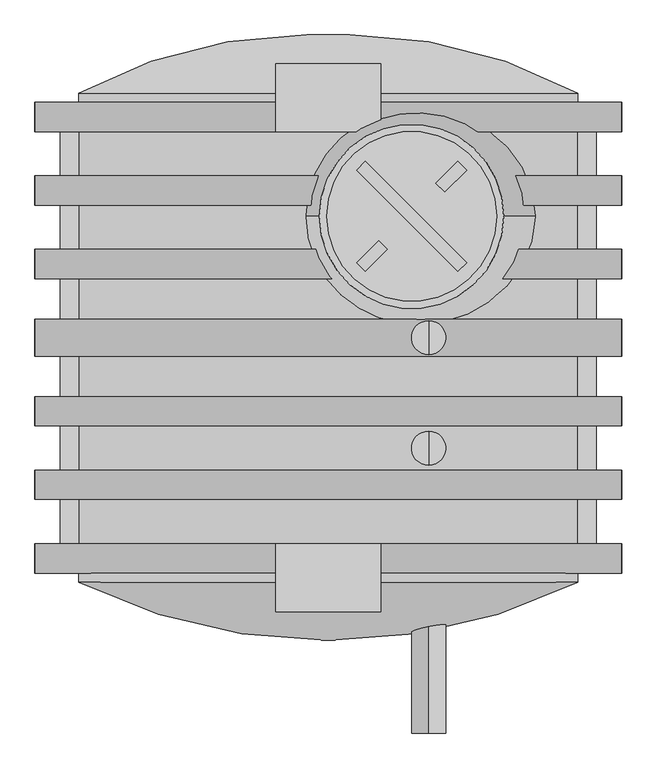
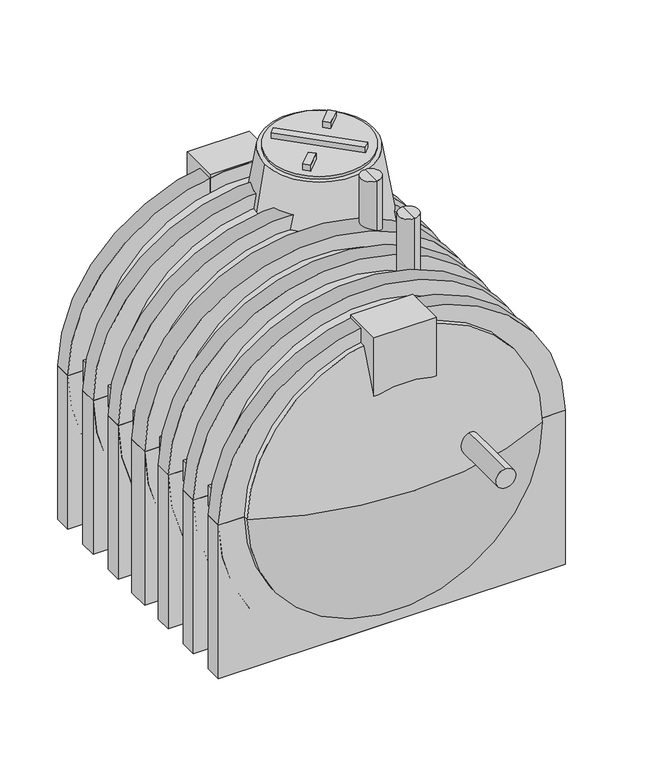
"""IFC4 building model written with IfcOpenShell, lengths in millimetres: pipe fitting geometry, Plastigama Wavin_Biotanque Séptico 4000L : 4000 Litros."""

from ifc_helpers import new_model, si_unit, point, frame, frame_2d, origin, origin_2d, place, context, project, spatial, polyline, circle_curve, ellipse_curve, trimmed, segment, composite_curve, outline, extrude, source, transform, mapped, element, save
from ifc_brep_helpers import plane_surface, cylinder_surface, revolved_surface, extruded_surface, advanced_brep


def pipe_fitting_64e98824(model_context):
    return source(origin(), model_context, "Body", "SolidModel", [
        advanced_brep(
        [(325.0000006, 349.24, 1119.3), (325.0000006, 459.24, 1119.3), (325.0000006, 459.24, 463.1), (325.0000006, 349.24, 463.1), (325.0000006, 404.24, 1119.3), (325.0000006, 404.24, 463.1)],
        [
            (0, 1, circle_curve(frame((325.0000006, 404.24, 1119.3), z_axis=(0.0, 0.0, -1.0), x_axis=(0.0, 1.0, 0.0)), 55.0)),
            (1, 2),
            (2, 3, circle_curve(frame((325.0000006, 404.24, 463.1), z_axis=(0.0, 0.0, 1.0), x_axis=(0.0, 1.0, 0.0)), 55.0)),
            (3, 0),
            (1, 0, circle_curve(frame((325.0000006, 404.24, 1119.3), z_axis=(0.0, 0.0, -1.0), x_axis=(0.0, 1.0, 0.0)), 55.0)),
            (3, 2, circle_curve(frame((325.0000006, 404.24, 463.1), z_axis=(0.0, 0.0, 1.0), x_axis=(0.0, 1.0, 0.0)), 55.0)),
            (4, 1),
            (0, 4),
            (2, 5),
            (5, 3),
        ],
        [
            cylinder_surface(frame((325.0000006, 404.24, 463.1), z_axis=(0.0, 0.0, 1.0), x_axis=(0.0, 1.0, 0.0)), 55.0),
            plane_surface(frame((325.0000006, 404.24, 1119.3), z_axis=(0.0, 0.0, 1.0), x_axis=(0.0, 1.0, 0.0))),
            plane_surface(frame((325.0000006, 404.24, 463.1), z_axis=(0.0, 0.0, -1.0), x_axis=(0.0, 1.0, 0.0))),
        ],
        [
            (0, [[1, 2, 3, 4]]),
            (0, [[5, -4, 6, -2]]),
            (1, [[7, -1, 8]]),
            (1, [[-8, -5, -7]]),
            (2, [[-3, 9, 10]]),
            (2, [[-6, -10, -9]]),
        ],
    ),
        advanced_brep(
        [(325.0, 707.15, 463.1), (325.0, 817.15, 463.1), (325.0, 762.15, 463.1), (325.0, 707.15, 1119.3), (325.0, 817.15, 1119.3), (325.0, 762.15, 1119.3)],
        [
            (0, 1, circle_curve(frame((325.0, 762.15, 463.1), z_axis=(0.0, 0.0, -1.0), x_axis=(0.0, 1.0, 0.0)), 55.0)),
            (1, 2),
            (2, 0),
            (1, 0, circle_curve(frame((325.0, 762.15, 463.1), z_axis=(0.0, 0.0, -1.0), x_axis=(0.0, 1.0, 0.0)), 55.0)),
            (3, 4, circle_curve(frame((325.0, 762.15, 1119.3), z_axis=(0.0, 0.0, -1.0), x_axis=(0.0, 1.0, 0.0)), 55.0)),
            (4, 1),
            (0, 3),
            (4, 3, circle_curve(frame((325.0, 762.15, 1119.3), z_axis=(0.0, 0.0, -1.0), x_axis=(0.0, 1.0, 0.0)), 55.0)),
            (5, 4),
            (3, 5),
        ],
        [
            plane_surface(frame((325.0, 762.15, 463.1), z_axis=(0.0, 0.0, -1.0), x_axis=(0.0, 1.0, 0.0))),
            cylinder_surface(frame((325.0, 762.15, 1115.3167923), z_axis=(0.0, 0.0, 1.0), x_axis=(0.0, 1.0, 0.0)), 55.0),
            plane_surface(frame((325.0, 762.15, 1119.3), z_axis=(0.0, 0.0, 1.0), x_axis=(0.0, 1.0, 0.0))),
        ],
        [
            (0, [[1, 2, 3]]),
            (0, [[4, -3, -2]]),
            (1, [[5, 6, -1, 7]]),
            (1, [[8, -7, -4, -6]]),
            (2, [[9, -5, 10]]),
            (2, [[-10, -8, -9]]),
        ],
    ),
        extrude(outline(polyline([(447.9080661, 1304.6437949), (377.197388, 1233.9331168), (348.9131168, 1262.217388), (419.6237949, 1332.9280661), (447.9080661, 1304.6437949)])), frame((0.0, 0.0, 1085.0), z_axis=(0.0, 0.0, 1.0), x_axis=(1.0, 0.0, 0.0)), (0.0, 0.0, 1.0), 34.3),
        extrude(outline(polyline([(120.3762051, 1332.9280661), (447.9080661, 1005.3962051), (419.6237949, 977.1119339), (92.0919339, 1304.6437949), (120.3762051, 1332.9280661)])), frame((0.0, 0.0, 1085.0), z_axis=(0.0, 0.0, 1.0), x_axis=(1.0, 0.0, 0.0)), (0.0, 0.0, 1.0), 34.3),
        extrude(outline(polyline([(92.0919339, 1005.3962051), (162.802612, 1076.1068832), (191.0868832, 1047.822612), (120.3762051, 977.1119339), (92.0919339, 1005.3962051)])), frame((0.0, 0.0, 1085.0), z_axis=(0.0, 0.0, 1.0), x_axis=(1.0, 0.0, 0.0)), (0.0, 0.0, 1.0), 34.3),
        extrude(outline(composite_curve([segment(trimmed(circle_curve(frame_2d((270.0, 1155.02)), 275.0), [point((-5.0, 1155.02))], [point((545.0, 1155.02))], False, "CARTESIAN"), True, "CONTINUOUS"), segment(trimmed(circle_curve(frame_2d((270.0, 1155.02)), 275.0), [point((545.0, 1155.02))], [point((-5.0, 1155.02))], False, "CARTESIAN"), True, "CONTINUOUS")], self_intersect=False)), frame((0.0, 0.0, 1069.6), z_axis=(0.0, 0.0, 1.0), x_axis=(1.0, 0.0, 0.0)), (0.0, 0.0, 1.0), 15.4),
        advanced_brep(
        [(-28.6, 1155.02, 1069.6), (568.6, 1155.02, 1069.6), (-130.0, 1155.02, 450.0), (670.0, 1155.02, 450.0)],
        [
            (0, 1, circle_curve(frame((270.0, 1155.02, 1069.6), z_axis=(0.0, 0.0, 1.0), x_axis=(-1.0, 0.0, 0.0)), 298.6)),
            (1, 0, circle_curve(frame((270.0, 1155.02, 1069.6), z_axis=(0.0, 0.0, 1.0), x_axis=(1.0, 0.0, 0.0)), 298.6)),
            (2, 3, circle_curve(frame((270.0, 1155.02, 450.0), z_axis=(0.0, 0.0, -1.0), x_axis=(1.0, 0.0, 0.0)), 400.0)),
            (3, 2, circle_curve(frame((270.0, 1155.02, 450.0), z_axis=(0.0, 0.0, -1.0), x_axis=(-1.0, 0.0, 0.0)), 400.0)),
            (3, 1),
            (0, 2),
        ],
        [
            plane_surface(frame((270.0, 1155.02, 1069.6), z_axis=(0.0, 0.0, 1.0), x_axis=(0.0, -1.0, 0.0))),
            plane_surface(frame((270.0, 1155.02, 450.0), z_axis=(0.0, 0.0, -1.0), x_axis=(0.0, -1.0, 0.0))),
            revolved_surface(polyline([(-28.60000000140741, 1155.02, 1069.6), (-130.0, 1155.02, 450.0)]), (270.0, 1155.02, 2894.1814596), (0.0, 0.0, -1.0)),
            revolved_surface(polyline([(568.6000000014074, 1155.02, 1069.6), (670.0, 1155.02, 450.0)]), (270.0, 1155.02, 2894.1814596), (0.0, 0.0, -1.0)),
        ],
        [
            (0, [[1, 2]]),
            (1, [[3, 4]]),
            (2, [[-4, 5, -1, 6]]),
            (3, [[-3, -6, -2, -5]]),
        ],
    ),
        advanced_brep(
        [(0.0, 1649.2, 775.0), (0.0, 1649.2, 665.0), (0.0, 1421.75, 775.0), (0.0, 1531.75, 665.0), (0.0, 1421.75, 300.0), (0.0, 1531.75, 300.0)],
        [
            (0, 1, circle_curve(frame((0.0, 1649.2, 720.0), z_axis=(0.0, 1.0, 0.0), x_axis=(0.0, 0.0, -1.0)), 55.0)),
            (1, 0, circle_curve(frame((0.0, 1649.2, 720.0), z_axis=(0.0, 1.0, 0.0), x_axis=(0.0, 0.0, -1.0)), 55.0)),
            (0, 2),
            (2, 3, ellipse_curve(frame((0.0, 1476.75, 720.0), z_axis=(0.0, 0.7071067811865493, 0.7071067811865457), x_axis=(0.0, 0.7071067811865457, -0.7071067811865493)), 77.7817459, 55.0)),
            (3, 1),
            (3, 2, ellipse_curve(frame((0.0, 1476.75, 720.0), z_axis=(0.0, 0.7071067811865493, 0.7071067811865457), x_axis=(0.0, 0.7071067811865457, -0.7071067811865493)), 77.7817459, 55.0)),
            (4, 5, circle_curve(frame((0.0, 1476.75, 300.0), z_axis=(0.0, 0.0, -1.0), x_axis=(0.0, 1.0, 0.0)), 55.0)),
            (5, 4, circle_curve(frame((0.0, 1476.75, 300.0), z_axis=(0.0, 0.0, -1.0), x_axis=(0.0, 1.0, 0.0)), 55.0)),
            (2, 4),
            (5, 3),
        ],
        [
            plane_surface(frame((0.0, 1649.2, 720.0), z_axis=(0.0, 1.0, 0.0), x_axis=(1.0, 0.0, 0.0))),
            cylinder_surface(frame((0.0, 1649.2, 720.0), z_axis=(0.0, 1.0, 0.0), x_axis=(0.0, 0.0, -1.0)), 55.0),
            plane_surface(frame((0.0, 1476.75, 300.0), z_axis=(0.0, 0.0, -1.0), x_axis=(1.0, 0.0, 0.0))),
            cylinder_surface(frame((0.0, 1476.75, 720.0), z_axis=(0.0, 0.0, 1.0), x_axis=(0.0, 1.0, 0.0)), 55.0),
        ],
        [
            (0, [[1, 2]]),
            (1, [[-1, 3, 4, 5]]),
            (1, [[-2, -5, 6, -3]]),
            (2, [[7, 8]]),
            (3, [[-4, 9, -8, 10]]),
            (3, [[-6, -10, -7, -9]]),
        ],
    ),
        extrude(outline(polyline([(170.0, 1649.3), (170.0, 1429.2), (-170.0, 1429.2), (-170.0, 1649.3), (170.0, 1649.3)])), frame((0.0, 0.0, 550.0), z_axis=(0.0, 0.0, 1.0), x_axis=(1.0, 0.0, 0.0)), (0.0, 0.0, 1.0), 340.0),
        extrude(outline(polyline([(170.0, 95.1), (170.0, -125.0), (-170.0, -125.0), (-170.0, 95.1), (170.0, 95.1)])), frame((0.0, 0.0, 550.0), z_axis=(0.0, 0.0, 1.0), x_axis=(1.0, 0.0, 0.0)), (0.0, 0.0, 1.0), 340.0),
        extrude(outline(polyline([(-868.4, 1429.2), (-808.4, 1429.2), (-808.4, 1286.1), (-868.4, 1286.1), (-868.4, 1429.2)])), frame((0.0, 0.0, -60.0), z_axis=(0.0, 0.0, 1.0), x_axis=(1.0, 0.0, 0.0)), (0.0, 0.0, 1.0), 120.0),
        extrude(outline(polyline([(-868.4, 1191.0), (-808.4, 1191.0), (-808.4, 1047.9), (-868.4, 1047.9), (-868.4, 1191.0)])), frame((0.0, 0.0, -60.0), z_axis=(0.0, 0.0, 1.0), x_axis=(1.0, 0.0, 0.0)), (0.0, 0.0, 1.0), 120.0),
        extrude(outline(polyline([(-868.4, 952.8), (-808.4, 952.8), (-808.4, 809.7), (-868.4, 809.7), (-868.4, 952.8)])), frame((0.0, 0.0, -60.0), z_axis=(0.0, 0.0, 1.0), x_axis=(1.0, 0.0, 0.0)), (0.0, 0.0, 1.0), 120.0),
        extrude(outline(polyline([(-868.4, 714.6), (-808.4, 714.6), (-808.4, 571.5), (-868.4, 571.5), (-868.4, 714.6)])), frame((0.0, 0.0, -60.0), z_axis=(0.0, 0.0, 1.0), x_axis=(1.0, 0.0, 0.0)), (0.0, 0.0, 1.0), 120.0),
        extrude(outline(polyline([(-868.4, 476.4), (-808.4, 476.4), (-808.4, 333.3), (-868.4, 333.3), (-868.4, 476.4)])), frame((0.0, 0.0, -60.0), z_axis=(0.0, 0.0, 1.0), x_axis=(1.0, 0.0, 0.0)), (0.0, 0.0, 1.0), 120.0),
        extrude(outline(polyline([(-868.4, 238.2), (-808.4, 238.2), (-808.4, 95.1), (-868.4, 95.1), (-868.4, 238.2)])), frame((0.0, 0.0, -60.0), z_axis=(0.0, 0.0, 1.0), x_axis=(1.0, 0.0, 0.0)), (0.0, 0.0, 1.0), 120.0),
        extrude(outline(polyline([(808.4, 1429.2), (868.4, 1429.2), (868.4, 1286.1), (808.4, 1286.1), (808.4, 1429.2)])), frame((0.0, 0.0, -60.0), z_axis=(0.0, 0.0, 1.0), x_axis=(1.0, 0.0, 0.0)), (0.0, 0.0, 1.0), 120.0),
        extrude(outline(polyline([(808.4, 1191.0), (868.4, 1191.0), (868.4, 1047.9), (808.4, 1047.9), (808.4, 1191.0)])), frame((0.0, 0.0, -60.0), z_axis=(0.0, 0.0, 1.0), x_axis=(1.0, 0.0, 0.0)), (0.0, 0.0, 1.0), 120.0),
        extrude(outline(polyline([(808.4, 952.8), (868.4, 952.8), (868.4, 809.7), (808.4, 809.7), (808.4, 952.8)])), frame((0.0, 0.0, -60.0), z_axis=(0.0, 0.0, 1.0), x_axis=(1.0, 0.0, 0.0)), (0.0, 0.0, 1.0), 120.0),
        extrude(outline(polyline([(808.4, 714.6), (868.4, 714.6), (868.4, 571.5), (808.4, 571.5), (808.4, 714.6)])), frame((0.0, 0.0, -60.0), z_axis=(0.0, 0.0, 1.0), x_axis=(1.0, 0.0, 0.0)), (0.0, 0.0, 1.0), 120.0),
        extrude(outline(polyline([(808.4, 476.4), (868.4, 476.4), (868.4, 333.3), (808.4, 333.3), (808.4, 476.4)])), frame((0.0, 0.0, -60.0), z_axis=(0.0, 0.0, 1.0), x_axis=(1.0, 0.0, 0.0)), (0.0, 0.0, 1.0), 120.0),
        extrude(outline(polyline([(808.4, 238.2), (868.4, 238.2), (868.4, 95.1), (808.4, 95.1), (808.4, 238.2)])), frame((0.0, 0.0, -60.0), z_axis=(0.0, 0.0, 1.0), x_axis=(1.0, 0.0, 0.0)), (0.0, 0.0, 1.0), 120.0),
        advanced_brep(
        [(270.0, 1155.02, 651.8), (270.0, 1421.62, 651.8), (270.0, 888.42, 651.8), (270.0, 888.42, -590.0), (270.0, 1421.62, -590.0), (270.0, 1155.02, -590.0)],
        [
            (0, 1),
            (1, 2, circle_curve(frame((270.0, 1155.02, 651.8), z_axis=(0.0, 0.0, 1.0), x_axis=(0.0, 1.0, 0.0)), 266.6)),
            (2, 0),
            (2, 1, circle_curve(frame((270.0, 1155.02, 651.8), z_axis=(0.0, 0.0, 1.0), x_axis=(0.0, 1.0, 0.0)), 266.6)),
            (3, 4, circle_curve(frame((270.0, 1155.02, -590.0), z_axis=(0.0, 0.0, -1.0), x_axis=(0.0, 1.0, 0.0)), 266.6)),
            (4, 5),
            (5, 3),
            (4, 3, circle_curve(frame((270.0, 1155.02, -590.0), z_axis=(0.0, 0.0, -1.0), x_axis=(0.0, 1.0, 0.0)), 266.6)),
            (1, 4),
            (3, 2),
        ],
        [
            plane_surface(frame((270.0, 1155.02, 651.8), z_axis=(0.0, 0.0, 1.0), x_axis=(0.0, 1.0, 0.0))),
            plane_surface(frame((270.0, 1155.02, -590.0), z_axis=(0.0, 0.0, -1.0), x_axis=(0.0, 1.0, 0.0))),
            cylinder_surface(frame((270.0, 1155.02, 650.3097509), z_axis=(0.0, 0.0, 1.0), x_axis=(0.0, 1.0, 0.0)), 266.6),
        ],
        [
            (0, [[1, 2, 3]]),
            (0, [[-3, 4, -1]]),
            (1, [[5, 6, 7]]),
            (1, [[8, -7, -6]]),
            (2, [[-2, 9, -5, 10]]),
            (2, [[-4, -10, -8, -9]]),
        ],
    ),
        advanced_brep(
        [(325.0, 894.2322118, 573.1), (325.0, 894.2322118, 463.1), (325.0, 707.15, 573.1), (325.0, 817.15, 463.1), (325.0, 707.15, -480.0), (325.0, 817.15, -590.0), (325.0, 459.2322118, -480.0), (325.0, 349.2322118, -590.0), (325.0, 459.2322118, 573.1), (325.0, 349.2322118, 463.1), (325.0, 114.2322118, 573.1), (325.0, 224.2322118, 463.1), (325.0, 114.2322118, -480.0), (325.0, 224.2322118, -590.0), (325.0, 69.2322118, -480.0), (325.0, -40.7677882, -590.0), (325.0, 69.2322118, 195.5), (325.0, -40.7677882, 85.5), (325.0, -518.2, 195.5), (325.0, -518.2, 85.5)],
        [
            (0, 1, circle_curve(frame((325.0, 894.2322118, 518.1), z_axis=(0.0, 1.0, 0.0), x_axis=(0.0, 0.0, -1.0)), 55.0)),
            (1, 0, circle_curve(frame((325.0, 894.2322118, 518.1), z_axis=(0.0, 1.0, 0.0), x_axis=(0.0, 0.0, -1.0)), 55.0)),
            (0, 2),
            (2, 3, ellipse_curve(frame((325.0, 762.15, 518.1), z_axis=(0.0, 0.7071067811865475, 0.7071067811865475), x_axis=(0.0, 0.7071067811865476, -0.7071067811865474)), 77.7817459, 55.0)),
            (3, 1),
            (3, 2, ellipse_curve(frame((325.0, 762.15, 518.1), z_axis=(0.0, 0.7071067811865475, 0.7071067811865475), x_axis=(0.0, 0.7071067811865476, -0.7071067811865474)), 77.7817459, 55.0)),
            (2, 4),
            (4, 5, ellipse_curve(frame((325.0, 762.15, -535.0), z_axis=(0.0, 0.7071067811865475, 0.7071067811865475), x_axis=(0.0, -0.7071067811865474, 0.7071067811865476)), 77.7817459, 55.0)),
            (5, 3),
            (5, 4, ellipse_curve(frame((325.0, 762.15, -535.0), z_axis=(0.0, 0.7071067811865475, 0.7071067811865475), x_axis=(0.0, -0.7071067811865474, 0.7071067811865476)), 77.7817459, 55.0)),
            (4, 6),
            (6, 7, ellipse_curve(frame((325.0, 404.2322118, -535.0), z_axis=(0.0, 0.7071067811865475, -0.7071067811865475), x_axis=(0.0, 0.7071067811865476, 0.7071067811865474)), 77.7817459, 55.0)),
            (7, 5),
            (7, 6, ellipse_curve(frame((325.0, 404.2322118, -535.0), z_axis=(0.0, 0.7071067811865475, -0.7071067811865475), x_axis=(0.0, 0.7071067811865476, 0.7071067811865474)), 77.7817459, 55.0)),
            (6, 8),
            (8, 9, ellipse_curve(frame((325.0, 404.2322118, 518.1), z_axis=(0.0, 0.7071067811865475, -0.7071067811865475), x_axis=(0.0, -0.7071067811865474, -0.7071067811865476)), 77.7817459, 55.0)),
            (9, 7),
            (9, 8, ellipse_curve(frame((325.0, 404.2322118, 518.1), z_axis=(0.0, 0.7071067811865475, -0.7071067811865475), x_axis=(0.0, -0.7071067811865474, -0.7071067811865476)), 77.7817459, 55.0)),
            (8, 10),
            (10, 11, ellipse_curve(frame((325.0, 169.2322118, 518.1), z_axis=(0.0, 0.7071067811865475, 0.7071067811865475), x_axis=(0.0, 0.7071067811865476, -0.7071067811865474)), 77.7817459, 55.0)),
            (11, 9),
            (11, 10, ellipse_curve(frame((325.0, 169.2322118, 518.1), z_axis=(0.0, 0.7071067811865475, 0.7071067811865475), x_axis=(0.0, 0.7071067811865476, -0.7071067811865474)), 77.7817459, 55.0)),
            (10, 12),
            (12, 13, ellipse_curve(frame((325.0, 169.2322118, -535.0), z_axis=(0.0, 0.7071067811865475, 0.7071067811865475), x_axis=(0.0, -0.7071067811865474, 0.7071067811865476)), 77.7817459, 55.0)),
            (13, 11),
            (13, 12, ellipse_curve(frame((325.0, 169.2322118, -535.0), z_axis=(0.0, 0.7071067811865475, 0.7071067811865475), x_axis=(0.0, -0.7071067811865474, 0.7071067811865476)), 77.7817459, 55.0)),
            (12, 14),
            (14, 15, ellipse_curve(frame((325.0, 14.2322118, -535.0), z_axis=(0.0, 0.7071067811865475, -0.7071067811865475), x_axis=(0.0, 0.7071067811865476, 0.7071067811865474)), 77.7817459, 55.0)),
            (15, 13),
            (15, 14, ellipse_curve(frame((325.0, 14.2322118, -535.0), z_axis=(0.0, 0.7071067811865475, -0.7071067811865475), x_axis=(0.0, 0.7071067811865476, 0.7071067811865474)), 77.7817459, 55.0)),
            (14, 16),
            (16, 17, ellipse_curve(frame((325.0, 14.2322118, 140.5), z_axis=(0.0, 0.7071067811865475, -0.7071067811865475), x_axis=(0.0, -0.7071067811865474, -0.7071067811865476)), 77.7817459, 55.0)),
            (17, 15),
            (17, 16, ellipse_curve(frame((325.0, 14.2322118, 140.5), z_axis=(0.0, 0.7071067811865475, -0.7071067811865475), x_axis=(0.0, -0.7071067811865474, -0.7071067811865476)), 77.7817459, 55.0)),
            (18, 19, circle_curve(frame((325.0, -518.2, 140.5), z_axis=(0.0, -1.0, 0.0), x_axis=(0.0, 0.0, -1.0)), 55.0)),
            (19, 18, circle_curve(frame((325.0, -518.2, 140.5), z_axis=(0.0, -1.0, 0.0), x_axis=(0.0, 0.0, -1.0)), 55.0)),
            (16, 18),
            (19, 17),
        ],
        [
            plane_surface(frame((0.0, 894.2322118, 518.1), z_axis=(0.0, 1.0, 0.0), x_axis=(1.0, 0.0, 0.0))),
            cylinder_surface(frame((325.0, 894.2322118, 518.1), z_axis=(0.0, 1.0, 0.0), x_axis=(0.0, 0.0, -1.0)), 55.0),
            cylinder_surface(frame((325.0, 762.15, 518.1), z_axis=(0.0, 0.0, 1.0), x_axis=(0.0, 1.0, 0.0)), 55.0),
            cylinder_surface(frame((325.0, 762.15, -535.0), z_axis=(0.0, 1.0, 0.0), x_axis=(0.0, 0.0, -1.0)), 55.0),
            cylinder_surface(frame((325.0, 404.2322118, -535.0), z_axis=(0.0, 0.0, -1.0), x_axis=(0.0, -1.0, 0.0)), 55.0),
            cylinder_surface(frame((325.0, 404.2322118, 518.1), z_axis=(0.0, 1.0, 0.0), x_axis=(0.0, 0.0, -1.0)), 55.0),
            cylinder_surface(frame((325.0, 169.2322118, 518.1), z_axis=(0.0, 0.0, 1.0), x_axis=(0.0, 1.0, 0.0)), 55.0),
            cylinder_surface(frame((325.0, 169.2322118, -535.0), z_axis=(0.0, 1.0, 0.0), x_axis=(0.0, 0.0, -1.0)), 55.0),
            cylinder_surface(frame((325.0, 14.2322118, -535.0), z_axis=(0.0, 0.0, -1.0), x_axis=(0.0, -1.0, 0.0)), 55.0),
            plane_surface(frame((0.0, -518.2, 140.5), z_axis=(0.0, -1.0, 0.0), x_axis=(1.0, 0.0, 0.0))),
            cylinder_surface(frame((325.0, 14.2322118, 140.5), z_axis=(0.0, 1.0, 0.0), x_axis=(0.0, 0.0, -1.0)), 55.0),
        ],
        [
            (0, [[1, 2]]),
            (1, [[-1, 3, 4, 5]]),
            (1, [[-2, -5, 6, -3]]),
            (2, [[-4, 7, 8, 9]]),
            (2, [[-6, -9, 10, -7]]),
            (3, [[-8, 11, 12, 13]]),
            (3, [[-10, -13, 14, -11]]),
            (4, [[-12, 15, 16, 17]]),
            (4, [[-14, -17, 18, -15]]),
            (5, [[-16, 19, 20, 21]]),
            (5, [[-18, -21, 22, -19]]),
            (6, [[-20, 23, 24, 25]]),
            (6, [[-22, -25, 26, -23]]),
            (7, [[-24, 27, 28, 29]]),
            (7, [[-26, -29, 30, -27]]),
            (8, [[-28, 31, 32, 33]]),
            (8, [[-30, -33, 34, -31]]),
            (9, [[35, 36]]),
            (10, [[-32, 37, -36, 38]]),
            (10, [[-34, -38, -35, -37]]),
        ],
    ),
        extrude(outline(composite_curve([segment(polyline([(-890.0, -950.0), (-890.0, 950.0), (0.0, 950.0), (0.0, 798.0)]), True, "CONTINUOUS"), segment(trimmed(circle_curve(origin_2d(), 798.0), [point((0.0, 798.0))], [point((0.0, -798.0))], True, "CARTESIAN"), True, "CONTINUOUS"), segment(polyline([(0.0, -798.0), (0.0, -950.0), (-890.0, -950.0)]), True, "CONTINUOUS")], self_intersect=False)), frame((0.0, 1429.2, 0.0), z_axis=(0.0, 1.0, 0.0), x_axis=(0.0, 0.0, 1.0)), (0.0, 0.0, 1.0), 95.1),
        extrude(outline(composite_curve([segment(polyline([(-890.0, -950.0), (-890.0, 950.0), (0.0, 950.0), (0.0, 798.0)]), True, "CONTINUOUS"), segment(trimmed(circle_curve(origin_2d(), 798.0), [point((0.0, 798.0))], [point((0.0, -798.0))], True, "CARTESIAN"), True, "CONTINUOUS"), segment(polyline([(0.0, -798.0), (0.0, -950.0), (-890.0, -950.0)]), True, "CONTINUOUS")], self_intersect=False)), frame((0.0, 1191.0, 0.0), z_axis=(0.0, 1.0, 0.0), x_axis=(0.0, 0.0, 1.0)), (0.0, 0.0, 1.0), 95.1),
        extrude(outline(composite_curve([segment(polyline([(-890.0, -950.0), (-890.0, 950.0), (0.0, 950.0), (0.0, 798.0)]), True, "CONTINUOUS"), segment(trimmed(circle_curve(origin_2d(), 798.0), [point((0.0, 798.0))], [point((0.0, -798.0))], True, "CARTESIAN"), True, "CONTINUOUS"), segment(polyline([(0.0, -798.0), (0.0, -950.0), (-890.0, -950.0)]), True, "CONTINUOUS")], self_intersect=False)), frame((0.0, 952.8, 0.0), z_axis=(0.0, 1.0, 0.0), x_axis=(0.0, 0.0, 1.0)), (0.0, 0.0, 1.0), 95.1),
        extrude(outline(composite_curve([segment(polyline([(-890.0, -950.0), (-890.0, 950.0), (0.0, 950.0), (0.0, 798.0)]), True, "CONTINUOUS"), segment(trimmed(circle_curve(origin_2d(), 798.0), [point((0.0, 798.0))], [point((0.0, -798.0))], True, "CARTESIAN"), True, "CONTINUOUS"), segment(polyline([(0.0, -798.0), (0.0, -950.0), (-890.0, -950.0)]), True, "CONTINUOUS")], self_intersect=False)), frame((0.0, 702.15, 0.0), z_axis=(0.0, 1.0, 0.0), x_axis=(0.0, 0.0, 1.0)), (0.0, 0.0, 1.0), 120.0),
        extrude(outline(composite_curve([segment(polyline([(-890.0, -950.0), (-890.0, 950.0), (0.0, 950.0), (0.0, 798.0)]), True, "CONTINUOUS"), segment(trimmed(circle_curve(origin_2d(), 798.0), [point((0.0, 798.0))], [point((0.0, -798.0))], True, "CARTESIAN"), True, "CONTINUOUS"), segment(polyline([(0.0, -798.0), (0.0, -950.0), (-890.0, -950.0)]), True, "CONTINUOUS")], self_intersect=False)), frame((0.0, 476.4, 0.0), z_axis=(0.0, 1.0, 0.0), x_axis=(0.0, 0.0, 1.0)), (0.0, 0.0, 1.0), 95.1),
        extrude(outline(composite_curve([segment(polyline([(-890.0, -950.0), (-890.0, 950.0), (0.0, 950.0), (0.0, 798.0)]), True, "CONTINUOUS"), segment(trimmed(circle_curve(origin_2d(), 798.0), [point((0.0, 798.0))], [point((0.0, -798.0))], True, "CARTESIAN"), True, "CONTINUOUS"), segment(polyline([(0.0, -798.0), (0.0, -950.0), (-890.0, -950.0)]), True, "CONTINUOUS")], self_intersect=False)), frame((0.0, 238.2, 0.0), z_axis=(0.0, 1.0, 0.0), x_axis=(0.0, 0.0, 1.0)), (0.0, 0.0, 1.0), 95.1),
        extrude(outline(composite_curve([segment(polyline([(-890.0, -950.0), (-890.0, 950.0), (0.0, 950.0), (0.0, 798.0)]), True, "CONTINUOUS"), segment(trimmed(circle_curve(origin_2d(), 798.0), [point((0.0, 798.0))], [point((0.0, -798.0))], True, "CARTESIAN"), True, "CONTINUOUS"), segment(polyline([(0.0, -798.0), (0.0, -950.0), (-890.0, -950.0)]), True, "CONTINUOUS")], self_intersect=False)), frame((0.0, 0.0, 0.0), z_axis=(0.0, 1.0, 0.0), x_axis=(0.0, 0.0, 1.0)), (0.0, 0.0, 1.0), 95.1),
        advanced_brep(
        [(808.4, 0.0, 0.0), (-808.4, 0.0, 0.0), (0.0, 0.0, 0.0), (808.4, -30.0, 0.0), (-808.4, -30.0, 0.0), (3.3843941, -218.2, 0.0), (-3.3843941, -218.2, 0.0), (0.0, -218.2, 0.0)],
        [
            (0, 1, circle_curve(frame((0.0, 0.0, 0.0), z_axis=(0.0, 1.0, 0.0), x_axis=(-1.0, 0.0, 0.0)), 808.4)),
            (1, 2),
            (2, 0),
            (1, 0, circle_curve(frame((0.0, 0.0, 0.0), z_axis=(0.0, 1.0, 0.0), x_axis=(-1.0, 0.0, 0.0)), 808.4)),
            (3, 4, circle_curve(frame((0.0, -30.0, 0.0), z_axis=(0.0, 1.0, 0.0), x_axis=(-1.0, 0.0, 0.0)), 808.4)),
            (4, 1),
            (0, 3),
            (4, 3, circle_curve(frame((0.0, -30.0, 0.0), z_axis=(0.0, 1.0, 0.0), x_axis=(-1.0, 0.0, 0.0)), 808.4)),
            (5, 6, circle_curve(frame((0.0, -218.2, 0.0), z_axis=(0.0, 1.0, 0.0), x_axis=(-1.0, 0.0, 0.0)), 3.3843941)),
            (6, 4, circle_curve(frame((-3.3843941, 1597.6059662, 0.0), z_axis=(0.0, 0.0, -1.0), x_axis=(1.0, 0.0, 0.0)), 1815.8059662)),
            (3, 5, circle_curve(frame((3.3843941, 1597.6059662, 0.0), z_axis=(0.0, 0.0, -1.0), x_axis=(-1.0, 0.0, 0.0)), 1815.8059662)),
            (6, 5, circle_curve(frame((0.0, -218.2, 0.0), z_axis=(0.0, 1.0, 0.0), x_axis=(-1.0, 0.0, 0.0)), 3.3843941)),
            (7, 6),
            (5, 7),
        ],
        [
            plane_surface(frame((0.0, 0.0, 0.0), z_axis=(0.0, 1.0, 0.0), x_axis=(-1.0, 0.0, 0.0))),
            cylinder_surface(frame((0.0, 1528.4376645, 0.0), z_axis=(0.0, -1.0, 0.0), x_axis=(-1.0, 0.0, 0.0)), 808.4),
            revolved_surface(trimmed(ellipse_curve(frame((-3.3843941, 1597.6059662, 0.0), z_axis=(0.0, 0.0, 1.0), x_axis=(1.0, 0.0, 0.0)), 1815.8059662, 1815.8059662), [point((-808.4, -30.0, 0.0))], [point((-3.3843941, -218.2, 0.0))], True, "CARTESIAN"), (0.0, 1528.4376645, 0.0), (0.0, -1.0, 0.0)),
            plane_surface(frame((0.0, -218.2, 0.0), z_axis=(0.0, -1.0, 0.0), x_axis=(-1.0, 0.0, 0.0))),
        ],
        [
            (0, [[1, 2, 3]]),
            (0, [[4, -3, -2]]),
            (1, [[5, 6, -1, 7]]),
            (1, [[8, -7, -4, -6]]),
            (2, [[9, 10, -5, 11]]),
            (2, [[12, -11, -8, -10]]),
            (3, [[13, -9, 14]]),
            (3, [[-14, -12, -13]]),
        ],
    ),
        advanced_brep(
        [(70.0, 1742.5, 0.0), (-70.0, 1742.5, 0.0), (0.0, 1742.5, 0.0), (808.4, 1554.3, 0.0), (-808.4, 1554.3, 0.0), (808.4, 1524.3, 0.0), (-808.4, 1524.3, 0.0), (0.0, 1524.3, 0.0)],
        [
            (0, 1, circle_curve(frame((0.0, 1742.5, 0.0), z_axis=(0.0, 1.0, 0.0), x_axis=(-1.0, 0.0, 0.0)), 70.0)),
            (1, 2),
            (2, 0),
            (1, 0, circle_curve(frame((0.0, 1742.5, 0.0), z_axis=(0.0, 1.0, 0.0), x_axis=(-1.0, 0.0, 0.0)), 70.0)),
            (3, 4, circle_curve(frame((0.0, 1554.3, 0.0), z_axis=(0.0, 1.0, 0.0), x_axis=(-1.0, 0.0, 0.0)), 808.4)),
            (4, 1, circle_curve(frame((-70.0, 199.8490967, 0.0), z_axis=(0.0, 0.0, -1.0), x_axis=(1.0, 0.0, 0.0)), 1542.6509033)),
            (0, 3, circle_curve(frame((70.0, 199.8490967, 0.0), z_axis=(0.0, 0.0, -1.0), x_axis=(-1.0, 0.0, 0.0)), 1542.6509033)),
            (4, 3, circle_curve(frame((0.0, 1554.3, 0.0), z_axis=(0.0, 1.0, 0.0), x_axis=(-1.0, 0.0, 0.0)), 808.4)),
            (5, 6, circle_curve(frame((0.0, 1524.3, 0.0), z_axis=(0.0, 1.0, 0.0), x_axis=(-1.0, 0.0, 0.0)), 808.4)),
            (6, 4),
            (3, 5),
            (6, 5, circle_curve(frame((0.0, 1524.3, 0.0), z_axis=(0.0, 1.0, 0.0), x_axis=(-1.0, 0.0, 0.0)), 808.4)),
            (7, 6),
            (5, 7),
        ],
        [
            plane_surface(frame((0.0, 1742.5, 0.0), z_axis=(0.0, 1.0, 0.0), x_axis=(-1.0, 0.0, 0.0))),
            revolved_surface(trimmed(ellipse_curve(frame((-70.0, 199.8490967, 0.0), z_axis=(0.0, 0.0, 1.0), x_axis=(1.0, 0.0, 0.0)), 1542.6509033, 1542.6509033), [point((-70.0, 1742.5, 0.0))], [point((-808.4, 1554.3, 0.0))], True, "CARTESIAN"), (0.0, 1528.4376645, 0.0), (0.0, -1.0, 0.0)),
            cylinder_surface(frame((0.0, 1528.4376645, 0.0), z_axis=(0.0, -1.0, 0.0), x_axis=(-1.0, 0.0, 0.0)), 808.4),
            plane_surface(frame((0.0, 1524.3, 0.0), z_axis=(0.0, -1.0, 0.0), x_axis=(-1.0, 0.0, 0.0))),
        ],
        [
            (0, [[1, 2, 3]]),
            (0, [[4, -3, -2]]),
            (1, [[5, 6, -1, 7]]),
            (1, [[8, -7, -4, -6]]),
            (2, [[9, 10, -5, 11]]),
            (2, [[12, -11, -8, -10]]),
            (3, [[13, -9, 14]]),
            (3, [[-14, -12, -13]]),
        ],
    ),
        advanced_brep(
        [(-950.0, 0.0, 0.0), (-332.2649545, 0.0, -890.0), (332.2649545, 0.0, -890.0), (950.0, 0.0, 0.0), (798.0, 0.0, 0.0), (-798.0, 0.0, 0.0), (-950.0, 95.1, 0.0), (-332.2649545, 95.1, -890.0), (332.2649545, 95.1, -890.0), (950.0, 95.1, 0.0), (950.0, 1524.3, 0.0), (332.2649545, 1524.3, -890.0), (-332.2649545, 1524.3, -890.0), (-950.0, 1524.3, 0.0), (-798.0, 1524.3, 0.0), (798.0, 1524.3, 0.0), (950.0, 1429.2, 0.0), (332.2649545, 1429.2, -890.0), (-332.2649545, 1429.2, -890.0), (-950.0, 1429.2, 0.0), (808.4, 1429.2, 0.0), (-808.4, 1429.2, 0.0), (808.4, 1286.1, 0.0), (-808.4, 1286.1, 0.0), (950.0, 1286.1, 0.0), (332.2649545, 1286.1, -890.0), (-332.2649545, 1286.1, -890.0), (-950.0, 1286.1, 0.0), (950.0, 1191.0, 0.0), (332.2649545, 1191.0, -890.0), (-332.2649545, 1191.0, -890.0), (-950.0, 1191.0, 0.0), (808.4, 1191.0, 0.0), (-808.4, 1191.0, 0.0), (808.4, 1047.9, 0.0), (-808.4, 1047.9, 0.0), (950.0, 1047.9, 0.0), (332.2649545, 1047.9, -890.0), (-332.2649545, 1047.9, -890.0), (-950.0, 1047.9, 0.0), (950.0, 952.8, 0.0), (332.2649545, 952.8, -890.0), (-332.2649545, 952.8, -890.0), (-950.0, 952.8, 0.0), (808.4, 952.8, 0.0), (-808.4, 952.8, 0.0), (808.4, 822.15, 0.0), (-808.4, 822.15, 0.0), (950.0, 822.15, 0.0), (332.2649545, 822.15, -890.0), (-332.2649545, 822.15, -890.0), (-950.0, 822.15, 0.0), (950.0, 702.15, 0.0), (332.2649545, 702.15, -890.0), (-332.2649545, 702.15, -890.0), (-950.0, 702.15, 0.0), (808.4, 702.15, 0.0), (-808.4, 702.15, 0.0), (808.4, 571.5, 0.0), (-808.4, 571.5, 0.0), (950.0, 571.5, 0.0), (332.2649545, 571.5, -890.0), (-332.2649545, 571.5, -890.0), (-950.0, 571.5, 0.0), (950.0, 476.4, 0.0), (332.2649545, 476.4, -890.0), (-332.2649545, 476.4, -890.0), (-950.0, 476.4, 0.0), (808.4, 476.4, 0.0), (-808.4, 476.4, 0.0), (808.4, 333.3, 0.0), (-808.4, 333.3, 0.0), (950.0, 333.3, 0.0), (332.2649545, 333.3, -890.0), (-332.2649545, 333.3, -890.0), (-950.0, 333.3, 0.0), (950.0, 238.2, 0.0), (332.2649545, 238.2, -890.0), (-332.2649545, 238.2, -890.0), (-950.0, 238.2, 0.0), (808.4, 238.2, 0.0), (-808.4, 238.2, 0.0), (808.4, 95.1, 0.0), (-808.4, 95.1, 0.0)],
        [
            (0, 1, circle_curve(frame((0.0, 0.0, 0.0), z_axis=(0.0, -1.0, 0.0), x_axis=(-1.0, 0.0, 0.0)), 950.0)),
            (1, 2),
            (2, 3, circle_curve(frame((0.0, 0.0, 0.0), z_axis=(0.0, -1.0, 0.0), x_axis=(-1.0, 0.0, 0.0)), 950.0)),
            (3, 4),
            (4, 5, circle_curve(frame((0.0, 0.0, 0.0), z_axis=(0.0, 1.0, 0.0), x_axis=(1.0, 0.0, 0.0)), 798.0)),
            (5, 0),
            (3, 0, ellipse_curve(frame((0.0, 0.0, 0.0), z_axis=(0.0, -1.0, 0.0), x_axis=(-1.0, 0.0, 0.0)), 950.0, 890.0)),
            (5, 4, circle_curve(frame((0.0, 0.0, 0.0), z_axis=(0.0, 1.0, 0.0), x_axis=(1.0, 0.0, 0.0)), 798.0)),
            (0, 6),
            (6, 7, circle_curve(frame((0.0, 95.1, 0.0), z_axis=(0.0, -1.0, 0.0), x_axis=(-1.0, 0.0, 0.0)), 950.0)),
            (7, 1),
            (2, 8),
            (8, 9, circle_curve(frame((0.0, 95.1, 0.0), z_axis=(0.0, -1.0, 0.0), x_axis=(-1.0, 0.0, 0.0)), 950.0)),
            (9, 3),
            (10, 11, circle_curve(frame((0.0, 1524.3, 0.0), z_axis=(0.0, 1.0, 0.0), x_axis=(-1.0, 0.0, 0.0)), 950.0)),
            (11, 12),
            (12, 13, circle_curve(frame((0.0, 1524.3, 0.0), z_axis=(0.0, 1.0, 0.0), x_axis=(-1.0, 0.0, 0.0)), 950.0)),
            (13, 14),
            (14, 15, circle_curve(frame((0.0, 1524.3, 0.0), z_axis=(0.0, -1.0, 0.0), x_axis=(1.0, 0.0, 0.0)), 798.0)),
            (15, 10),
            (13, 10, ellipse_curve(frame((0.0, 1524.3, 0.0), z_axis=(0.0, 1.0, 0.0), x_axis=(-1.0, 0.0, 0.0)), 950.0, 890.0)),
            (15, 14, circle_curve(frame((0.0, 1524.3, 0.0), z_axis=(0.0, -1.0, 0.0), x_axis=(1.0, 0.0, 0.0)), 798.0)),
            (10, 16),
            (16, 17, circle_curve(frame((0.0, 1429.2, 0.0), z_axis=(0.0, 1.0, 0.0), x_axis=(-1.0, 0.0, 0.0)), 950.0)),
            (17, 11),
            (12, 18),
            (18, 19, circle_curve(frame((0.0, 1429.2, 0.0), z_axis=(0.0, 1.0, 0.0), x_axis=(-1.0, 0.0, 0.0)), 950.0)),
            (19, 13),
            (20, 21, circle_curve(frame((0.0, 1429.2, 0.0), z_axis=(0.0, 1.0, 0.0), x_axis=(-1.0, 0.0, 0.0)), 808.4)),
            (21, 19),
            (18, 17),
            (16, 20),
            (21, 20, circle_curve(frame((0.0, 1429.2, 0.0), z_axis=(0.0, 1.0, 0.0), x_axis=(-1.0, 0.0, 0.0)), 808.4)),
            (16, 19, ellipse_curve(frame((0.0, 1429.2, 0.0), z_axis=(0.0, -1.0, 0.0), x_axis=(-1.0, 0.0, 0.0)), 950.0, 890.0)),
            (20, 22),
            (22, 23, circle_curve(frame((0.0, 1286.1, 0.0), z_axis=(0.0, 1.0, 0.0), x_axis=(-1.0, 0.0, 0.0)), 808.4)),
            (23, 21),
            (23, 22, circle_curve(frame((0.0, 1286.1, 0.0), z_axis=(0.0, 1.0, 0.0), x_axis=(-1.0, 0.0, 0.0)), 808.4)),
            (22, 24),
            (24, 25, circle_curve(frame((0.0, 1286.1, 0.0), z_axis=(0.0, 1.0, 0.0), x_axis=(-1.0, 0.0, 0.0)), 950.0)),
            (25, 26),
            (26, 27, circle_curve(frame((0.0, 1286.1, 0.0), z_axis=(0.0, 1.0, 0.0), x_axis=(-1.0, 0.0, 0.0)), 950.0)),
            (27, 23),
            (27, 24, ellipse_curve(frame((0.0, 1286.1, 0.0), z_axis=(0.0, 1.0, 0.0), x_axis=(-1.0, 0.0, 0.0)), 950.0, 890.0)),
            (24, 28),
            (28, 29, circle_curve(frame((0.0, 1191.0, 0.0), z_axis=(0.0, 1.0, 0.0), x_axis=(-1.0, 0.0, 0.0)), 950.0)),
            (29, 25),
            (26, 30),
            (30, 31, circle_curve(frame((0.0, 1191.0, 0.0), z_axis=(0.0, 1.0, 0.0), x_axis=(-1.0, 0.0, 0.0)), 950.0)),
            (31, 27),
            (32, 33, circle_curve(frame((0.0, 1191.0, 0.0), z_axis=(0.0, 1.0, 0.0), x_axis=(-1.0, 0.0, 0.0)), 808.4)),
            (33, 31),
            (30, 29),
            (28, 32),
            (33, 32, circle_curve(frame((0.0, 1191.0, 0.0), z_axis=(0.0, 1.0, 0.0), x_axis=(-1.0, 0.0, 0.0)), 808.4)),
            (28, 31, ellipse_curve(frame((0.0, 1191.0, 0.0), z_axis=(0.0, -1.0, 0.0), x_axis=(-1.0, 0.0, 0.0)), 950.0, 890.0)),
            (32, 34),
            (34, 35, circle_curve(frame((0.0, 1047.9, 0.0), z_axis=(0.0, 1.0, 0.0), x_axis=(-1.0, 0.0, 0.0)), 808.4)),
            (35, 33),
            (35, 34, circle_curve(frame((0.0, 1047.9, 0.0), z_axis=(0.0, 1.0, 0.0), x_axis=(-1.0, 0.0, 0.0)), 808.4)),
            (34, 36),
            (36, 37, circle_curve(frame((0.0, 1047.9, 0.0), z_axis=(0.0, 1.0, 0.0), x_axis=(-1.0, 0.0, 0.0)), 950.0)),
            (37, 38),
            (38, 39, circle_curve(frame((0.0, 1047.9, 0.0), z_axis=(0.0, 1.0, 0.0), x_axis=(-1.0, 0.0, 0.0)), 950.0)),
            (39, 35),
            (39, 36, ellipse_curve(frame((0.0, 1047.9, 0.0), z_axis=(0.0, 1.0, 0.0), x_axis=(-1.0, 0.0, 0.0)), 950.0, 890.0)),
            (36, 40),
            (40, 41, circle_curve(frame((0.0, 952.8, 0.0), z_axis=(0.0, 1.0, 0.0), x_axis=(-1.0, 0.0, 0.0)), 950.0)),
            (41, 37),
            (38, 42),
            (42, 43, circle_curve(frame((0.0, 952.8, 0.0), z_axis=(0.0, 1.0, 0.0), x_axis=(-1.0, 0.0, 0.0)), 950.0)),
            (43, 39),
            (44, 45, circle_curve(frame((0.0, 952.8, 0.0), z_axis=(0.0, 1.0, 0.0), x_axis=(-1.0, 0.0, 0.0)), 808.4)),
            (45, 43),
            (42, 41),
            (40, 44),
            (45, 44, circle_curve(frame((0.0, 952.8, 0.0), z_axis=(0.0, 1.0, 0.0), x_axis=(-1.0, 0.0, 0.0)), 808.4)),
            (40, 43, ellipse_curve(frame((0.0, 952.8, 0.0), z_axis=(0.0, -1.0, 0.0), x_axis=(-1.0, 0.0, 0.0)), 950.0, 890.0)),
            (44, 46),
            (46, 47, circle_curve(frame((0.0, 822.15, 0.0), z_axis=(0.0, 1.0, 0.0), x_axis=(-1.0, 0.0, 0.0)), 808.4)),
            (47, 45),
            (47, 46, circle_curve(frame((0.0, 822.15, 0.0), z_axis=(0.0, 1.0, 0.0), x_axis=(-1.0, 0.0, 0.0)), 808.4)),
            (46, 48),
            (48, 49, circle_curve(frame((0.0, 822.15, 0.0), z_axis=(0.0, 1.0, 0.0), x_axis=(-1.0, 0.0, 0.0)), 950.0)),
            (49, 50),
            (50, 51, circle_curve(frame((0.0, 822.15, 0.0), z_axis=(0.0, 1.0, 0.0), x_axis=(-1.0, 0.0, 0.0)), 950.0)),
            (51, 47),
            (51, 48, ellipse_curve(frame((0.0, 822.15, 0.0), z_axis=(0.0, 1.0, 0.0), x_axis=(-1.0, 0.0, 0.0)), 950.0, 890.0)),
            (48, 52),
            (52, 53, circle_curve(frame((0.0, 702.15, 0.0), z_axis=(0.0, 1.0, 0.0), x_axis=(-1.0, 0.0, 0.0)), 950.0)),
            (53, 49),
            (50, 54),
            (54, 55, circle_curve(frame((0.0, 702.15, 0.0), z_axis=(0.0, 1.0, 0.0), x_axis=(-1.0, 0.0, 0.0)), 950.0)),
            (55, 51),
            (56, 57, circle_curve(frame((0.0, 702.15, 0.0), z_axis=(0.0, 1.0, 0.0), x_axis=(-1.0, 0.0, 0.0)), 808.4)),
            (57, 55),
            (54, 53),
            (52, 56),
            (57, 56, circle_curve(frame((0.0, 702.15, 0.0), z_axis=(0.0, 1.0, 0.0), x_axis=(-1.0, 0.0, 0.0)), 808.4)),
            (52, 55, ellipse_curve(frame((0.0, 702.15, 0.0), z_axis=(0.0, -1.0, 0.0), x_axis=(-1.0, 0.0, 0.0)), 950.0, 890.0)),
            (56, 58),
            (58, 59, circle_curve(frame((0.0, 571.5, 0.0), z_axis=(0.0, 1.0, 0.0), x_axis=(-1.0, 0.0, 0.0)), 808.4)),
            (59, 57),
            (59, 58, circle_curve(frame((0.0, 571.5, 0.0), z_axis=(0.0, 1.0, 0.0), x_axis=(-1.0, 0.0, 0.0)), 808.4)),
            (58, 60),
            (60, 61, circle_curve(frame((0.0, 571.5, 0.0), z_axis=(0.0, 1.0, 0.0), x_axis=(-1.0, 0.0, 0.0)), 950.0)),
            (61, 62),
            (62, 63, circle_curve(frame((0.0, 571.5, 0.0), z_axis=(0.0, 1.0, 0.0), x_axis=(-1.0, 0.0, 0.0)), 950.0)),
            (63, 59),
            (63, 60, ellipse_curve(frame((0.0, 571.5, 0.0), z_axis=(0.0, 1.0, 0.0), x_axis=(-1.0, 0.0, 0.0)), 950.0, 890.0)),
            (60, 64),
            (64, 65, circle_curve(frame((0.0, 476.4, 0.0), z_axis=(0.0, 1.0, 0.0), x_axis=(-1.0, 0.0, 0.0)), 950.0)),
            (65, 61),
            (62, 66),
            (66, 67, circle_curve(frame((0.0, 476.4, 0.0), z_axis=(0.0, 1.0, 0.0), x_axis=(-1.0, 0.0, 0.0)), 950.0)),
            (67, 63),
            (68, 69, circle_curve(frame((0.0, 476.4, 0.0), z_axis=(0.0, 1.0, 0.0), x_axis=(-1.0, 0.0, 0.0)), 808.4)),
            (69, 67),
            (66, 65),
            (64, 68),
            (69, 68, circle_curve(frame((0.0, 476.4, 0.0), z_axis=(0.0, 1.0, 0.0), x_axis=(-1.0, 0.0, 0.0)), 808.4)),
            (64, 67, ellipse_curve(frame((0.0, 476.4, 0.0), z_axis=(0.0, -1.0, 0.0), x_axis=(-1.0, 0.0, 0.0)), 950.0, 890.0)),
            (68, 70),
            (70, 71, circle_curve(frame((0.0, 333.3, 0.0), z_axis=(0.0, 1.0, 0.0), x_axis=(-1.0, 0.0, 0.0)), 808.4)),
            (71, 69),
            (71, 70, circle_curve(frame((0.0, 333.3, 0.0), z_axis=(0.0, 1.0, 0.0), x_axis=(-1.0, 0.0, 0.0)), 808.4)),
            (70, 72),
            (72, 73, circle_curve(frame((0.0, 333.3, 0.0), z_axis=(0.0, 1.0, 0.0), x_axis=(-1.0, 0.0, 0.0)), 950.0)),
            (73, 74),
            (74, 75, circle_curve(frame((0.0, 333.3, 0.0), z_axis=(0.0, 1.0, 0.0), x_axis=(-1.0, 0.0, 0.0)), 950.0)),
            (75, 71),
            (75, 72, ellipse_curve(frame((0.0, 333.3, 0.0), z_axis=(0.0, 1.0, 0.0), x_axis=(-1.0, 0.0, 0.0)), 950.0, 890.0)),
            (72, 76),
            (76, 77, circle_curve(frame((0.0, 238.2, 0.0), z_axis=(0.0, 1.0, 0.0), x_axis=(-1.0, 0.0, 0.0)), 950.0)),
            (77, 73),
            (74, 78),
            (78, 79, circle_curve(frame((0.0, 238.2, 0.0), z_axis=(0.0, 1.0, 0.0), x_axis=(-1.0, 0.0, 0.0)), 950.0)),
            (79, 75),
            (80, 81, circle_curve(frame((0.0, 238.2, 0.0), z_axis=(0.0, 1.0, 0.0), x_axis=(-1.0, 0.0, 0.0)), 808.4)),
            (81, 79),
            (78, 77),
            (76, 80),
            (81, 80, circle_curve(frame((0.0, 238.2, 0.0), z_axis=(0.0, 1.0, 0.0), x_axis=(-1.0, 0.0, 0.0)), 808.4)),
            (76, 79, ellipse_curve(frame((0.0, 238.2, 0.0), z_axis=(0.0, -1.0, 0.0), x_axis=(-1.0, 0.0, 0.0)), 950.0, 890.0)),
            (80, 82),
            (82, 83, circle_curve(frame((0.0, 95.1, 0.0), z_axis=(0.0, 1.0, 0.0), x_axis=(-1.0, 0.0, 0.0)), 808.4)),
            (83, 81),
            (83, 82, circle_curve(frame((0.0, 95.1, 0.0), z_axis=(0.0, 1.0, 0.0), x_axis=(-1.0, 0.0, 0.0)), 808.4)),
            (82, 9),
            (8, 7),
            (6, 83),
            (6, 9, ellipse_curve(frame((0.0, 95.1, 0.0), z_axis=(0.0, 1.0, 0.0), x_axis=(-1.0, 0.0, 0.0)), 950.0, 890.0)),
            (14, 5),
            (4, 15),
        ],
        [
            plane_surface(frame((0.0, 0.0, 0.0), z_axis=(0.0, -1.0, 0.0), x_axis=(-1.0, 0.0, 0.0))),
            cylinder_surface(frame((0.0, 0.0, 0.0), z_axis=(0.0, -1.0, 0.0), x_axis=(-1.0, 0.0, 0.0)), 950.0),
            plane_surface(frame((0.0, 1524.3, 0.0), z_axis=(0.0, 1.0, 0.0), x_axis=(-1.0, 0.0, 0.0))),
            plane_surface(frame((0.0, 1429.2, 0.0), z_axis=(0.0, -1.0, 0.0), x_axis=(-1.0, 0.0, 0.0))),
            cylinder_surface(frame((0.0, 0.0, 0.0), z_axis=(0.0, -1.0, 0.0), x_axis=(-1.0, 0.0, 0.0)), 808.4),
            plane_surface(frame((0.0, 1286.1, 0.0), z_axis=(0.0, 1.0, 0.0), x_axis=(-1.0, 0.0, 0.0))),
            plane_surface(frame((0.0, 1191.0, 0.0), z_axis=(0.0, -1.0, 0.0), x_axis=(-1.0, 0.0, 0.0))),
            plane_surface(frame((0.0, 1047.9, 0.0), z_axis=(0.0, 1.0, 0.0), x_axis=(-1.0, 0.0, 0.0))),
            plane_surface(frame((0.0, 952.8, 0.0), z_axis=(0.0, -1.0, 0.0), x_axis=(-1.0, 0.0, 0.0))),
            plane_surface(frame((0.0, 822.15, 0.0), z_axis=(0.0, 1.0, 0.0), x_axis=(-1.0, 0.0, 0.0))),
            plane_surface(frame((0.0, 702.15, 0.0), z_axis=(0.0, -1.0, 0.0), x_axis=(-1.0, 0.0, 0.0))),
            plane_surface(frame((0.0, 571.5, 0.0), z_axis=(0.0, 1.0, 0.0), x_axis=(-1.0, 0.0, 0.0))),
            plane_surface(frame((0.0, 476.4, 0.0), z_axis=(0.0, -1.0, 0.0), x_axis=(-1.0, 0.0, 0.0))),
            plane_surface(frame((0.0, 333.3, 0.0), z_axis=(0.0, 1.0, 0.0), x_axis=(-1.0, 0.0, 0.0))),
            plane_surface(frame((0.0, 238.2, 0.0), z_axis=(0.0, -1.0, 0.0), x_axis=(-1.0, 0.0, 0.0))),
            plane_surface(frame((0.0, 95.1, 0.0), z_axis=(0.0, 1.0, 0.0), x_axis=(-1.0, 0.0, 0.0))),
            extruded_surface(trimmed(ellipse_curve(frame((0.0, 1524.3, 0.0), z_axis=(0.0, 1.0, 0.0), x_axis=(-1.0, 0.0, 0.0)), 950.0, 890.0), [point((-950.0, 1524.3, 0.0))], [point((950.0, 1524.3, 0.0))], True, "CARTESIAN"), (0.0, 1524.3, 0.0), 1524.3),
            plane_surface(frame((332.2649545, 0.0, -890.0), z_axis=(0.0, 0.0, -1.0), x_axis=(0.0, 1.0, 0.0))),
            revolved_surface(polyline([(798.0, 0.0, 0.0), (798.0, 1524.3, 0.0)]), (0.0, 1528.5, 0.0), (0.0, -1.0, 0.0)),
        ],
        [
            (0, [[1, 2, 3, 4, 5, 6]]),
            (0, [[7, -6, 8, -4]]),
            (1, [[-1, 9, 10, 11]]),
            (1, [[-3, 12, 13, 14]]),
            (2, [[15, 16, 17, 18, 19, 20]]),
            (2, [[21, -20, 22, -18]]),
            (1, [[-15, 23, 24, 25]]),
            (1, [[-17, 26, 27, 28]]),
            (3, [[29, 30, -27, 31, -24, 32]]),
            (3, [[-30, 33, -32, 34]]),
            (4, [[-29, 35, 36, 37]]),
            (4, [[-33, -37, 38, -35]]),
            (5, [[-36, 39, 40, 41, 42, 43]]),
            (5, [[-38, -43, 44, -39]]),
            (1, [[-40, 45, 46, 47]]),
            (1, [[-42, 48, 49, 50]]),
            (6, [[51, 52, -49, 53, -46, 54]]),
            (6, [[-52, 55, -54, 56]]),
            (4, [[-51, 57, 58, 59]]),
            (4, [[-55, -59, 60, -57]]),
            (7, [[-58, 61, 62, 63, 64, 65]]),
            (7, [[-60, -65, 66, -61]]),
            (1, [[-62, 67, 68, 69]]),
            (1, [[-64, 70, 71, 72]]),
            (8, [[73, 74, -71, 75, -68, 76]]),
            (8, [[-74, 77, -76, 78]]),
            (4, [[-73, 79, 80, 81]]),
            (4, [[-77, -81, 82, -79]]),
            (9, [[-80, 83, 84, 85, 86, 87]]),
            (9, [[-82, -87, 88, -83]]),
            (1, [[-84, 89, 90, 91]]),
            (1, [[-86, 92, 93, 94]]),
            (10, [[95, 96, -93, 97, -90, 98]]),
            (10, [[-96, 99, -98, 100]]),
            (4, [[-95, 101, 102, 103]]),
            (4, [[-99, -103, 104, -101]]),
            (11, [[-102, 105, 106, 107, 108, 109]]),
            (11, [[-104, -109, 110, -105]]),
            (1, [[-106, 111, 112, 113]]),
            (1, [[-108, 114, 115, 116]]),
            (12, [[117, 118, -115, 119, -112, 120]]),
            (12, [[-118, 121, -120, 122]]),
            (4, [[-117, 123, 124, 125]]),
            (4, [[-121, -125, 126, -123]]),
            (13, [[-124, 127, 128, 129, 130, 131]]),
            (13, [[-126, -131, 132, -127]]),
            (1, [[-128, 133, 134, 135]]),
            (1, [[-130, 136, 137, 138]]),
            (14, [[139, 140, -137, 141, -134, 142]]),
            (14, [[-140, 143, -142, 144]]),
            (4, [[-139, 145, 146, 147]]),
            (4, [[-143, -147, 148, -145]]),
            (15, [[-146, 149, -13, 150, -10, 151]]),
            (15, [[-148, -151, 152, -149]]),
            (16, [[-7, -14, -152, -9]]),
            (16, [[-21, -28, -34, -23]]),
            (16, [[-44, -50, -56, -45]]),
            (16, [[-66, -72, -78, -67]]),
            (16, [[-88, -94, -100, -89]]),
            (16, [[-110, -116, -122, -111]]),
            (16, [[-132, -138, -144, -133]]),
            (17, [[-2, -11, -150, -12]]),
            (17, [[-16, -25, -31, -26]]),
            (17, [[-41, -47, -53, -48]]),
            (17, [[-63, -69, -75, -70]]),
            (17, [[-85, -91, -97, -92]]),
            (17, [[-107, -113, -119, -114]]),
            (17, [[-129, -135, -141, -136]]),
            (18, [[153, -5, 154, -19]]),
            (18, [[-153, -22, -154, -8]]),
        ],
    ),
    ])


if __name__ == "__main__":
    model = new_model("IFC4")
    model_context = context("Model", 3, world=origin())
    ifc_project = project(units=[si_unit("LENGTHUNIT", "METRE", prefix="MILLI")], contexts=[model_context])
    site = spatial("IfcSite", under=ifc_project)
    building = spatial("IfcBuilding", under=site)
    placement = place(None, origin())
    pipe_fitting_shape = pipe_fitting_64e98824(model_context)
    element("IfcPipeFitting", 1, ObjectType="Plastigama Wavin_Biotanque Séptico 4000L : 4000 Litros", at=placement, inside=building, context=model_context, shape_type="MappedRepresentation", body=[
        mapped(pipe_fitting_shape, transform((0.0, 0.0, 0.0), x_axis=(1.0, 0.0, 0.0), y_axis=(0.0, 1.0, 0.0), z_axis=(0.0, 0.0, 1.0))),
    ])
    save(model, "model.ifc")
